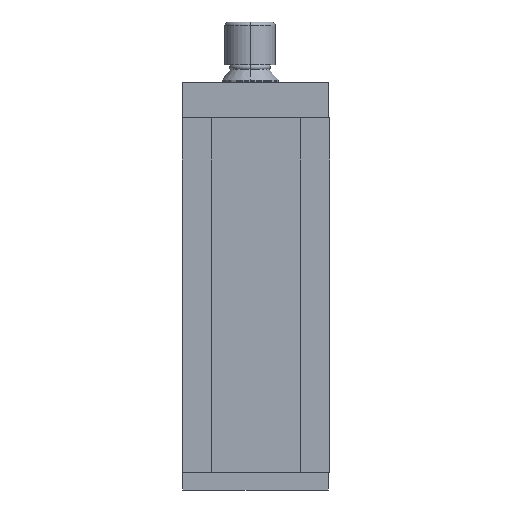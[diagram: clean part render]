
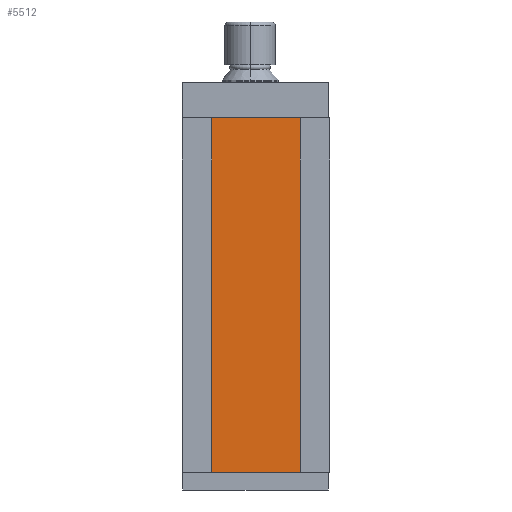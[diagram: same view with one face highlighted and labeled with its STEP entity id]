
A CAD part, front view. The second image highlights one B-rep face of the part: STEP entity #5512.
In plain terms, the highlighted planar face has unit normal (0, -1, 0).
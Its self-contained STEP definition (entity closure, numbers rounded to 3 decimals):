
#1274 = DIRECTION ( 'NONE',  ( -1., 0., 0. ) ) ;
#1275 = VECTOR ( 'NONE', #1274, 1000. ) ;
#1276 = CARTESIAN_POINT ( 'NONE',  ( 15.866, -11.5, -60. ) ) ;
#1282 = LINE ( 'NONE', #1276, #1275 ) ;
#1718 = CARTESIAN_POINT ( 'NONE',  ( 15.866, -11.5, -60. ) ) ;
#1957 = DIRECTION ( 'NONE',  ( 0., 0., 1. ) ) ;
#1958 = VECTOR ( 'NONE', #1957, 1000. ) ;
#1959 = CARTESIAN_POINT ( 'NONE',  ( 15.866, -11.5, -60. ) ) ;
#1960 = LINE ( 'NONE', #1959, #1958 ) ;
#1980 = CARTESIAN_POINT ( 'NONE',  ( -15.866, -11.5, 60. ) ) ;
#1981 = DIRECTION ( 'NONE',  ( -1., 0., 0. ) ) ;
#1982 = VECTOR ( 'NONE', #1981, 1000. ) ;
#1983 = CARTESIAN_POINT ( 'NONE',  ( 15.866, -11.5, 60. ) ) ;
#1984 = LINE ( 'NONE', #1983, #1982 ) ;
#3340 = FACE_OUTER_BOUND ( 'NONE', #5501, .T. ) ;
#3381 = DIRECTION ( 'NONE',  ( -1., 0., 0. ) ) ;
#3382 = DIRECTION ( 'NONE',  ( 0., 1., 0. ) ) ;
#3383 = CARTESIAN_POINT ( 'NONE',  ( 15.866, -11.5, -60. ) ) ;
#3384 = AXIS2_PLACEMENT_3D ( 'NONE', #3383, #3382, #3381 ) ;
#3386 = PLANE ( 'NONE',  #3384 ) ;
#3455 = DIRECTION ( 'NONE',  ( 0., 0., 1. ) ) ;
#3456 = VECTOR ( 'NONE', #3455, 1000. ) ;
#3457 = CARTESIAN_POINT ( 'NONE',  ( -15.866, -11.5, -60. ) ) ;
#3458 = LINE ( 'NONE', #3457, #3456 ) ;
#3465 = CARTESIAN_POINT ( 'NONE',  ( -15.866, -11.5, -60. ) ) ;
#3470 = CARTESIAN_POINT ( 'NONE',  ( 15.866, -11.5, 60. ) ) ;
#3941 = ORIENTED_EDGE ( 'NONE', *, *, #4386, .F. ) ;
#4386 = EDGE_CURVE ( 'NONE', #4623, #5522, #1282, .T. ) ;
#4533 = ORIENTED_EDGE ( 'NONE', *, *, #4716, .T. ) ;
#4623 = VERTEX_POINT ( 'NONE', #1718 ) ;
#4716 = EDGE_CURVE ( 'NONE', #4623, #5550, #1960, .T. ) ;
#4719 = ORIENTED_EDGE ( 'NONE', *, *, #4729, .T. ) ;
#4729 = EDGE_CURVE ( 'NONE', #5550, #4730, #1984, .T. ) ;
#4730 = VERTEX_POINT ( 'NONE', #1980 ) ;
#5501 = EDGE_LOOP ( 'NONE', ( #4719, #5520, #3941, #4533 ) ) ;
#5512 = ADVANCED_FACE ( 'Fl�che1', ( #3340 ), #3386, .F. ) ;
#5520 = ORIENTED_EDGE ( 'NONE', *, *, #5525, .F. ) ;
#5522 = VERTEX_POINT ( 'NONE', #3465 ) ;
#5525 = EDGE_CURVE ( 'NONE', #5522, #4730, #3458, .T. ) ;
#5550 = VERTEX_POINT ( 'NONE', #3470 ) ;
